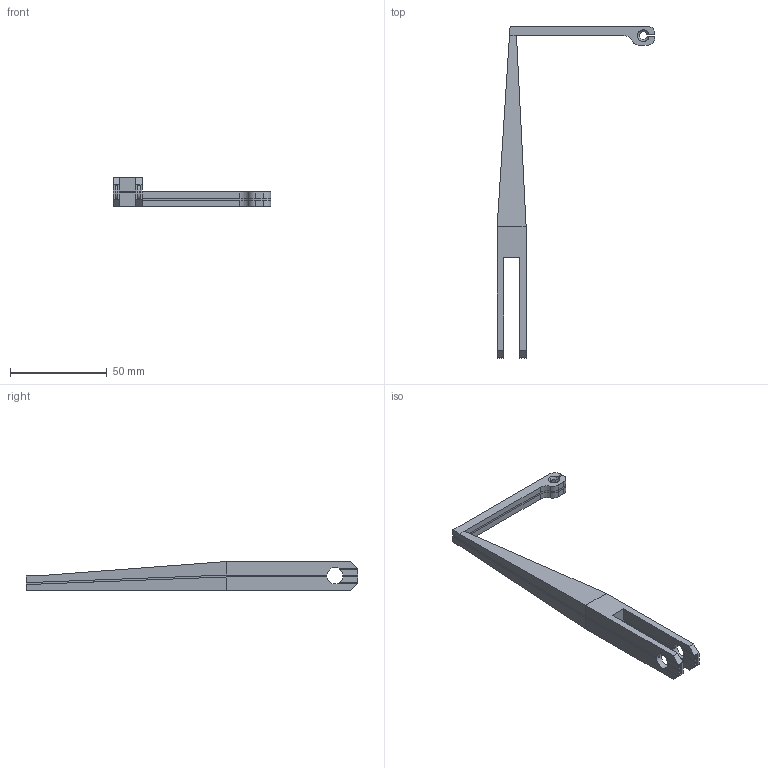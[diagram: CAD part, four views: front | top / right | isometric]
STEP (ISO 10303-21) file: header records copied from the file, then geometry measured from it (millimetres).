
FILE_DESCRIPTION (( 'STEP AP214' ), '1' );
FILE_NAME ('TubeHolder_LargeStand_v3.2.STEP', '2019-03-31T19:12:16', ( '' ), ( '' ), 'SwSTEP 2.0', 'SolidWorks 2018', '' );
FILE_SCHEMA (( 'AUTOMOTIVE_DESIGN' ));
Length unit declared in the file: millimetre
Products named in the file (1): TubeHolder_LargeStand_v3.2
Bounding box: 81.7 x 172 x 15 mm (x, y, z)
Volume: 22248.2 mm3; surface area: 15410.3 mm2
Topology: 9 solids, 9 shells, 227 faces, 608 edges, 399 vertices
Faces by surface type: plane 170, cylinder 51, cone 6
Entity records: 7168 total; most frequent: CARTESIAN_POINT 1247, ORIENTED_EDGE 1216, DIRECTION 1192, EDGE_CURVE 608, LINE 472, VECTOR 472, VERTEX_POINT 399, AXIS2_PLACEMENT_3D 360
